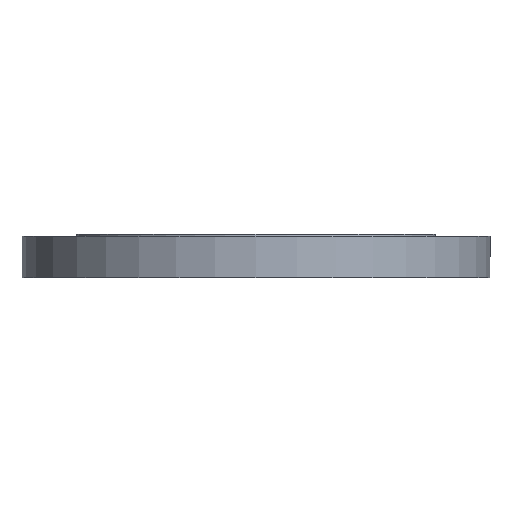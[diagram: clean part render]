
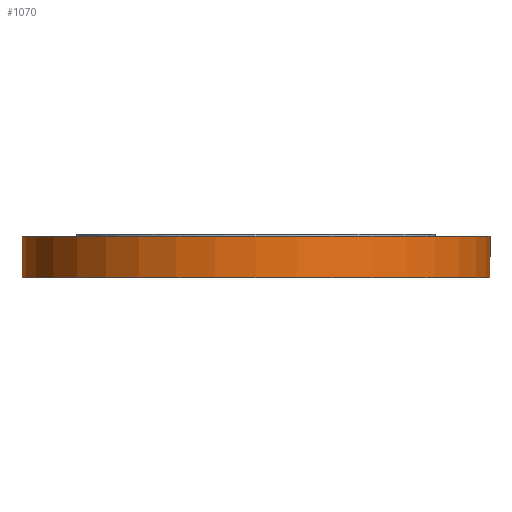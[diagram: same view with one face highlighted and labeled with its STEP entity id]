
A CAD part, front view. The second image highlights one B-rep face of the part: STEP entity #1070.
In plain terms, the highlighted cylindrical face has radius 225 mm (diameter 450 mm), a partial arc.
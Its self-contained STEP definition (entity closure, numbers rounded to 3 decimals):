
#7 = AXIS2_PLACEMENT_3D ( 'NONE', #1062, #1057, #1042 ) ;
#110 = CIRCLE ( 'NONE', #209, 225. ) ;
#161 = DIRECTION ( 'NONE',  ( 0., 0., 1. ) ) ;
#164 = CARTESIAN_POINT ( 'NONE',  ( -225., 0., -115. ) ) ;
#165 = LINE ( 'NONE', #164, #1010 ) ;
#209 = AXIS2_PLACEMENT_3D ( 'NONE', #1091, #1080, #1082 ) ;
#316 = CIRCLE ( 'NONE', #431, 225. ) ;
#371 = CYLINDRICAL_SURFACE ( 'NONE', #7, 225. ) ;
#378 = FACE_OUTER_BOUND ( 'NONE', #838, .T. ) ;
#386 = CARTESIAN_POINT ( 'NONE',  ( 225., 0., -2. ) ) ;
#431 = AXIS2_PLACEMENT_3D ( 'NONE', #1118, #1117, #1114 ) ;
#442 = CARTESIAN_POINT ( 'NONE',  ( -225., 0., -42. ) ) ;
#527 = VERTEX_POINT ( 'NONE', #386 ) ;
#838 = EDGE_LOOP ( 'NONE', ( #1288, #1289, #1290, #1293 ) ) ;
#851 = EDGE_CURVE ( 'NONE', #1282, #1047, #165, .T. ) ;
#885 = VECTOR ( 'NONE', #940, 1000. ) ;
#937 = CARTESIAN_POINT ( 'NONE',  ( 225., 0., -115. ) ) ;
#940 = DIRECTION ( 'NONE',  ( 0., 0., 1. ) ) ;
#952 = LINE ( 'NONE', #937, #885 ) ;
#1010 = VECTOR ( 'NONE', #161, 1000. ) ;
#1027 = VERTEX_POINT ( 'NONE', #1141 ) ;
#1042 = DIRECTION ( 'NONE',  ( 1., 0., 0. ) ) ;
#1044 = EDGE_CURVE ( 'NONE', #1027, #1282, #110, .T. ) ;
#1047 = VERTEX_POINT ( 'NONE', #1076 ) ;
#1048 = EDGE_CURVE ( 'NONE', #527, #1047, #316, .T. ) ;
#1057 = DIRECTION ( 'NONE',  ( 0., 0., 1. ) ) ;
#1062 = CARTESIAN_POINT ( 'NONE',  ( 0., 0., -115. ) ) ;
#1070 = ADVANCED_FACE ( 'NONE', ( #378 ), #371, .T. ) ;
#1076 = CARTESIAN_POINT ( 'NONE',  ( -225., 0., -2. ) ) ;
#1080 = DIRECTION ( 'NONE',  ( 0., 0., -1. ) ) ;
#1082 = DIRECTION ( 'NONE',  ( -1., 0., 0. ) ) ;
#1091 = CARTESIAN_POINT ( 'NONE',  ( 0., 0., -42. ) ) ;
#1093 = EDGE_CURVE ( 'NONE', #1027, #527, #952, .T. ) ;
#1114 = DIRECTION ( 'NONE',  ( -1., 0., 0. ) ) ;
#1117 = DIRECTION ( 'NONE',  ( 0., 0., -1. ) ) ;
#1118 = CARTESIAN_POINT ( 'NONE',  ( 0., 0., -2. ) ) ;
#1141 = CARTESIAN_POINT ( 'NONE',  ( 225., 0., -42. ) ) ;
#1282 = VERTEX_POINT ( 'NONE', #442 ) ;
#1288 = ORIENTED_EDGE ( 'NONE', *, *, #851, .F. ) ;
#1289 = ORIENTED_EDGE ( 'NONE', *, *, #1044, .F. ) ;
#1290 = ORIENTED_EDGE ( 'NONE', *, *, #1093, .T. ) ;
#1293 = ORIENTED_EDGE ( 'NONE', *, *, #1048, .T. ) ;
